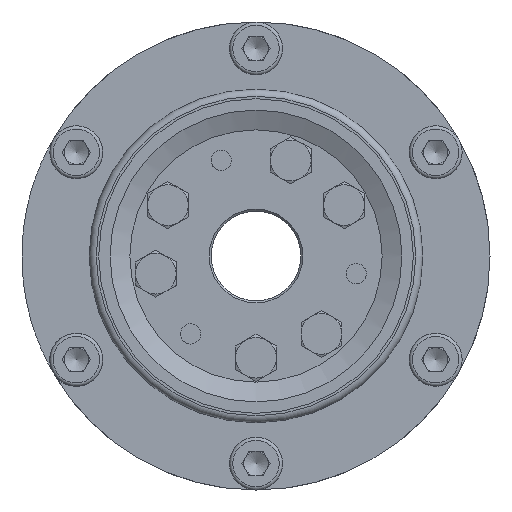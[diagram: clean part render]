
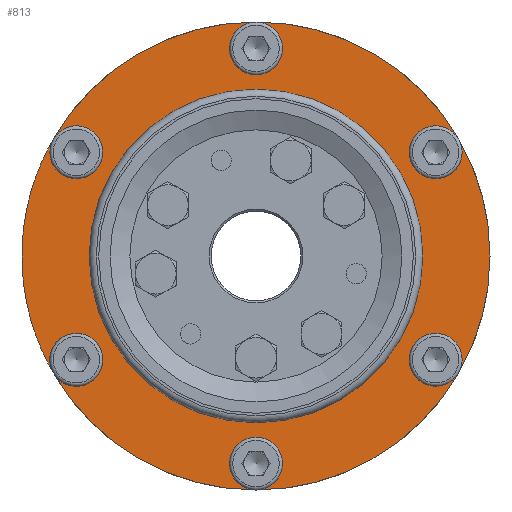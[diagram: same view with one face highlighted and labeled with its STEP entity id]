
A CAD part, left-side view. The second image highlights one B-rep face of the part: STEP entity #813.
In plain terms, the highlighted planar face has unit normal (-1, 0, 0).
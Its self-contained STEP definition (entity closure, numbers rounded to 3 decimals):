
#813 = ADVANCED_FACE( '', ( #2094, #2095 ), #2096, .F. );
#2094 = FACE_OUTER_BOUND( '', #4025, .T. );
#2095 = FACE_BOUND( '', #4026, .T. );
#2096 = PLANE( '', #4027 );
#4025 = EDGE_LOOP( '', ( #6580, #6581, #6582, #6583, #6584, #6585, #6586, #6587, #6588, #6589, #6590, #6591 ) );
#4026 = EDGE_LOOP( '', ( #6592 ) );
#4027 = AXIS2_PLACEMENT_3D( '', #6593, #6594, #6595 );
#6580 = ORIENTED_EDGE( '', *, *, #10532, .T. );
#6581 = ORIENTED_EDGE( '', *, *, #10533, .F. );
#6582 = ORIENTED_EDGE( '', *, *, #10534, .T. );
#6583 = ORIENTED_EDGE( '', *, *, #10535, .F. );
#6584 = ORIENTED_EDGE( '', *, *, #10536, .T. );
#6585 = ORIENTED_EDGE( '', *, *, #10537, .F. );
#6586 = ORIENTED_EDGE( '', *, *, #10538, .T. );
#6587 = ORIENTED_EDGE( '', *, *, #10539, .F. );
#6588 = ORIENTED_EDGE( '', *, *, #10540, .T. );
#6589 = ORIENTED_EDGE( '', *, *, #10541, .F. );
#6590 = ORIENTED_EDGE( '', *, *, #10542, .T. );
#6591 = ORIENTED_EDGE( '', *, *, #10543, .F. );
#6592 = ORIENTED_EDGE( '', *, *, #10544, .F. );
#6593 = CARTESIAN_POINT( '', ( -11.5, 0., 57.5 ) );
#6594 = DIRECTION( '', ( 1., 0., 0. ) );
#6595 = DIRECTION( '', ( 0., 1., 0. ) );
#10532 = EDGE_CURVE( '', #12563, #12564, #12565, .T. );
#10533 = EDGE_CURVE( '', #12564, #12564, #12566, .T. );
#10534 = EDGE_CURVE( '', #12564, #12567, #12568, .T. );
#10535 = EDGE_CURVE( '', #12567, #12567, #12569, .T. );
#10536 = EDGE_CURVE( '', #12567, #12570, #12571, .T. );
#10537 = EDGE_CURVE( '', #12570, #12570, #12572, .T. );
#10538 = EDGE_CURVE( '', #12570, #12573, #12574, .T. );
#10539 = EDGE_CURVE( '', #12573, #12573, #12575, .T. );
#10540 = EDGE_CURVE( '', #12573, #12576, #12577, .T. );
#10541 = EDGE_CURVE( '', #12576, #12576, #12578, .T. );
#10542 = EDGE_CURVE( '', #12576, #12563, #12579, .T. );
#10543 = EDGE_CURVE( '', #12563, #12563, #12580, .T. );
#10544 = EDGE_CURVE( '', #12581, #12581, #12582, .T. );
#12563 = VERTEX_POINT( '', #15769 );
#12564 = VERTEX_POINT( '', #15770 );
#12565 = CIRCLE( '', #15771, 57.5 );
#12566 = CIRCLE( '', #15772, 6.5 );
#12567 = VERTEX_POINT( '', #15773 );
#12568 = CIRCLE( '', #15774, 57.5 );
#12569 = CIRCLE( '', #15775, 6.5 );
#12570 = VERTEX_POINT( '', #15776 );
#12571 = CIRCLE( '', #15777, 57.5 );
#12572 = CIRCLE( '', #15778, 6.5 );
#12573 = VERTEX_POINT( '', #15779 );
#12574 = CIRCLE( '', #15780, 57.5 );
#12575 = CIRCLE( '', #15781, 6.5 );
#12576 = VERTEX_POINT( '', #15782 );
#12577 = CIRCLE( '', #15783, 57.5 );
#12578 = CIRCLE( '', #15784, 6.5 );
#12579 = CIRCLE( '', #15785, 57.5 );
#12580 = CIRCLE( '', #15786, 6.5 );
#12581 = VERTEX_POINT( '', #15787 );
#12582 = CIRCLE( '', #15788, 38.65 );
#15769 = CARTESIAN_POINT( '', ( -11.5, 49.796, 28.75 ) );
#15770 = CARTESIAN_POINT( '', ( -11.5, 49.796, -28.75 ) );
#15771 = AXIS2_PLACEMENT_3D( '', #19919, #19920, #19921 );
#15772 = AXIS2_PLACEMENT_3D( '', #19922, #19923, #19924 );
#15773 = CARTESIAN_POINT( '', ( -11.5, 0., -57.5 ) );
#15774 = AXIS2_PLACEMENT_3D( '', #19925, #19926, #19927 );
#15775 = AXIS2_PLACEMENT_3D( '', #19928, #19929, #19930 );
#15776 = CARTESIAN_POINT( '', ( -11.5, -49.796, -28.75 ) );
#15777 = AXIS2_PLACEMENT_3D( '', #19931, #19932, #19933 );
#15778 = AXIS2_PLACEMENT_3D( '', #19934, #19935, #19936 );
#15779 = CARTESIAN_POINT( '', ( -11.5, -49.796, 28.75 ) );
#15780 = AXIS2_PLACEMENT_3D( '', #19937, #19938, #19939 );
#15781 = AXIS2_PLACEMENT_3D( '', #19940, #19941, #19942 );
#15782 = CARTESIAN_POINT( '', ( -11.5, 0., 57.5 ) );
#15783 = AXIS2_PLACEMENT_3D( '', #19943, #19944, #19945 );
#15784 = AXIS2_PLACEMENT_3D( '', #19946, #19947, #19948 );
#15785 = AXIS2_PLACEMENT_3D( '', #19949, #19950, #19951 );
#15786 = AXIS2_PLACEMENT_3D( '', #19952, #19953, #19954 );
#15787 = CARTESIAN_POINT( '', ( -11.5, 0., 38.65 ) );
#15788 = AXIS2_PLACEMENT_3D( '', #19955, #19956, #19957 );
#19919 = CARTESIAN_POINT( '', ( -11.5, 0., 0. ) );
#19920 = DIRECTION( '', ( -1., 0., 0. ) );
#19921 = DIRECTION( '', ( 0., 0., 1. ) );
#19922 = CARTESIAN_POINT( '', ( -11.5, 44.167, -25.5 ) );
#19923 = DIRECTION( '', ( -1., 0., 0. ) );
#19924 = DIRECTION( '', ( 0., 0.866, -0.5 ) );
#19925 = CARTESIAN_POINT( '', ( -11.5, 0., 0. ) );
#19926 = DIRECTION( '', ( -1., 0., 0. ) );
#19927 = DIRECTION( '', ( 0., 0., 1. ) );
#19928 = CARTESIAN_POINT( '', ( -11.5, 0., -51. ) );
#19929 = DIRECTION( '', ( -1., 0., 0. ) );
#19930 = DIRECTION( '', ( 0., 0., -1. ) );
#19931 = CARTESIAN_POINT( '', ( -11.5, 0., 0. ) );
#19932 = DIRECTION( '', ( -1., 0., 0. ) );
#19933 = DIRECTION( '', ( 0., 0., 1. ) );
#19934 = CARTESIAN_POINT( '', ( -11.5, -44.167, -25.5 ) );
#19935 = DIRECTION( '', ( -1., 0., 0. ) );
#19936 = DIRECTION( '', ( 0., -0.866, -0.5 ) );
#19937 = CARTESIAN_POINT( '', ( -11.5, 0., 0. ) );
#19938 = DIRECTION( '', ( -1., 0., 0. ) );
#19939 = DIRECTION( '', ( 0., 0., 1. ) );
#19940 = CARTESIAN_POINT( '', ( -11.5, -44.167, 25.5 ) );
#19941 = DIRECTION( '', ( -1., 0., 0. ) );
#19942 = DIRECTION( '', ( 0., -0.866, 0.5 ) );
#19943 = CARTESIAN_POINT( '', ( -11.5, 0., 0. ) );
#19944 = DIRECTION( '', ( -1., 0., 0. ) );
#19945 = DIRECTION( '', ( 0., 0., 1. ) );
#19946 = CARTESIAN_POINT( '', ( -11.5, 0., 51. ) );
#19947 = DIRECTION( '', ( -1., 0., 0. ) );
#19948 = DIRECTION( '', ( 0., 0., 1. ) );
#19949 = CARTESIAN_POINT( '', ( -11.5, 0., 0. ) );
#19950 = DIRECTION( '', ( -1., 0., 0. ) );
#19951 = DIRECTION( '', ( 0., 0., 1. ) );
#19952 = CARTESIAN_POINT( '', ( -11.5, 44.167, 25.5 ) );
#19953 = DIRECTION( '', ( -1., 0., 0. ) );
#19954 = DIRECTION( '', ( 0., 0.866, 0.5 ) );
#19955 = CARTESIAN_POINT( '', ( -11.5, 0., 0. ) );
#19956 = DIRECTION( '', ( -1., 0., 0. ) );
#19957 = DIRECTION( '', ( 0., 0., 1. ) );
